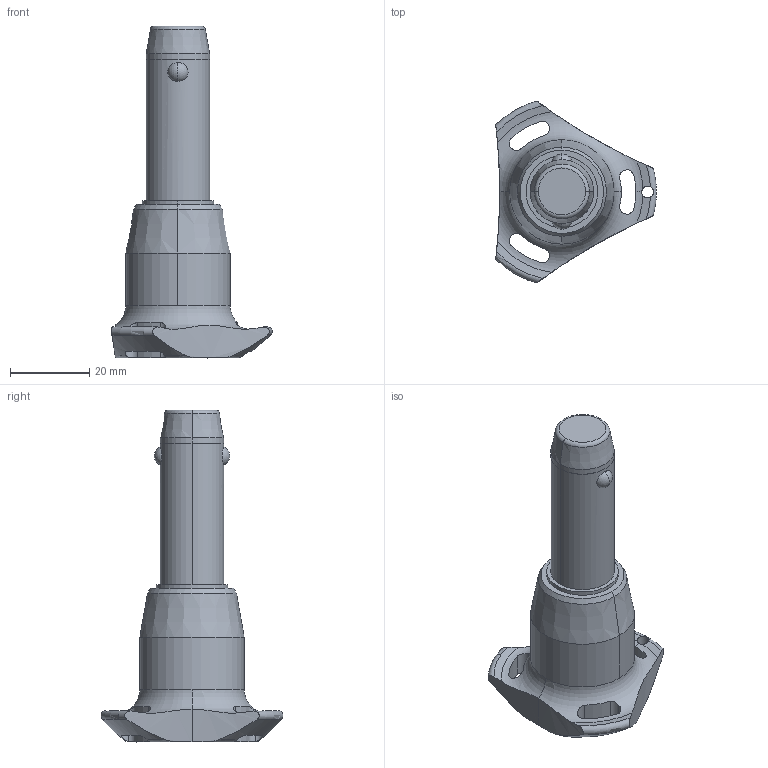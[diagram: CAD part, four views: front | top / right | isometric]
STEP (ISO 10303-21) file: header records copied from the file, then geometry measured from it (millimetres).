
FILE_DESCRIPTION (( 'STEP AP203' ), '1' );
FILE_NAME ('QR1716.M16-030-T.step', '2025-11-13T10:38:32', ( '' ), ( '' ), 'SwSTEP 2.0', 'SolidWorks 2019', '' );
FILE_SCHEMA (( 'CONFIG_CONTROL_DESIGN' ));
Length unit declared in the file: millimetre
Products named in the file (1): QR1716.M16-030-T
Bounding box: 40.5 x 45.88 x 83.7 mm (x, y, z)
Volume: 31127.8 mm3; surface area: 8166.9 mm2
Topology: 1 solids, 1 shells, 68 faces, 186 edges, 119 vertices
Faces by surface type: cylinder 32, cone 14, torus 11, sphere 6, plane 5
Entity records: 2970 total; most frequent: CARTESIAN_POINT 1198, ORIENTED_EDGE 372, DIRECTION 349, EDGE_CURVE 186, AXIS2_PLACEMENT_3D 156, VERTEX_POINT 119, CIRCLE 87, EDGE_LOOP 75
